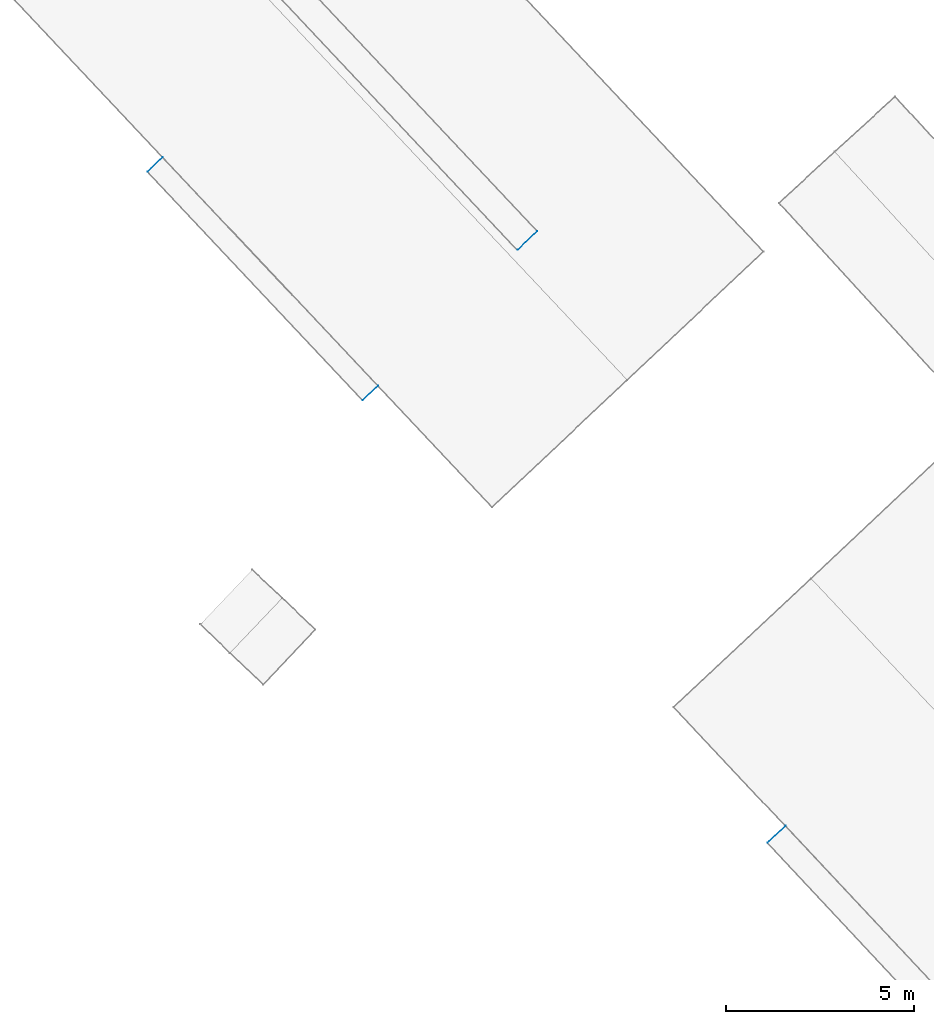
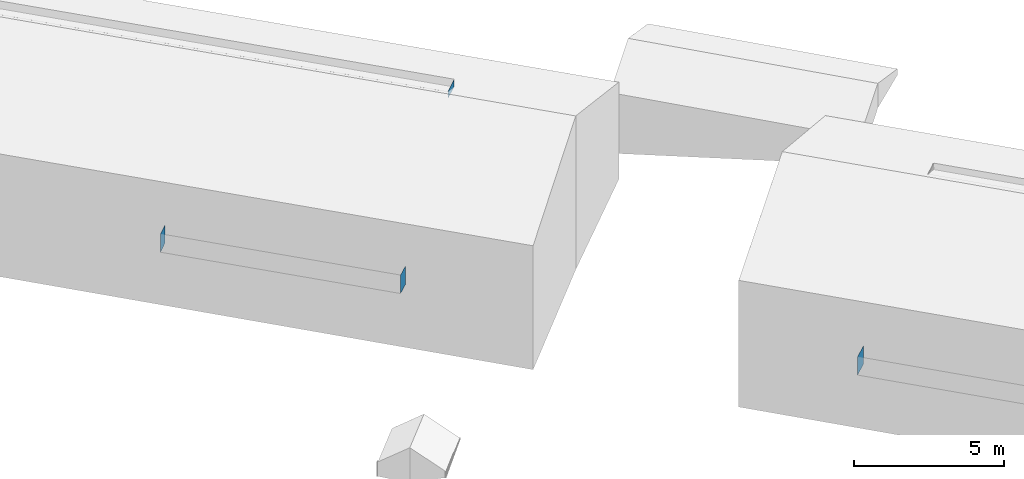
# Not in any storey, part 115 of 136: 7 walls.
"""IFC4 building model written with IfcOpenShell, lengths in metres."""

from ifc_helpers import new_model, entity, si_unit, converted_unit, frame, origin, place, context, subcontext, project, spatial, face_set, surface_model, element, save


model = new_model("IFC4")

# Units and contexts
model_context = context("Model", 3, precision=1e-05, world=origin())
body_context = subcontext(model_context, "Body", "Model", "MODEL_VIEW")
ifc_project = project(units=[converted_unit("PLANEANGLEUNIT", "DEGREE", entity("IfcRatioMeasure", 0.0174532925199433), si_unit("PLANEANGLEUNIT", "RADIAN"), dimensions=[0, 0, 0, 0, 0, 0, 0]), si_unit("AREAUNIT", "SQUARE_METRE"), si_unit("LENGTHUNIT", "METRE")], contexts=[model_context])

# Site, building
site_placement = place(None, origin())
site = spatial("IfcSite", under=ifc_project, at=site_placement, Name="_site")
building_1_placement = place(site_placement, origin())
building_1 = spatial("IfcBuilding", under=site, at=building_1_placement, Name="_building")

# Walls
wall_1_placement = place(building_1_placement, origin())
element("IfcWall", 1, at=wall_1_placement, inside=building_1, Name="Wall", PredefinedType="NOTDEFINED", context=body_context, shape_type="SurfaceModel", body=[
    surface_model("IfcFaceBasedSurfaceModel", [(52.36, 147.04, 42.19), (52.76, 147.43, 42.19), (52.76, 147.43, 42.94), (52.36, 147.04, 42.94)], [face_set([[[0, 1, 2, 3]]])]),
])
wall_2_placement = place(building_1_placement, origin())
element("IfcWall", 2, at=wall_2_placement, inside=building_1, Name="Wall", PredefinedType="NOTDEFINED", context=body_context, shape_type="SurfaceModel", body=[
    surface_model("IfcFaceBasedSurfaceModel", [(58.49, 141.351, 42.19), (58.08, 140.97, 42.19), (58.08, 140.97, 42.94), (58.49, 141.351, 42.94)], [face_set([[[0, 1, 2, 3]]])]),
])
wall_3_placement = place(building_1_placement, origin())
element("IfcWall", 3, at=wall_3_placement, inside=building_1, Name="Wall", PredefinedType="NOTDEFINED", context=body_context, shape_type="SurfaceModel", body=[
    surface_model("IfcFaceBasedSurfaceModel", [(62.73, 145.46, 46.55), (62.2, 144.96, 46.522), (62.2, 144.96, 46.243), (62.73, 145.46, 46.234)], [face_set([[[0, 1, 2, 3]]])]),
])
wall_4_placement = place(building_1_placement, origin())
element("IfcWall", 4, at=wall_4_placement, inside=building_1, Name="Wall", PredefinedType="NOTDEFINED", context=body_context, shape_type="SurfaceModel", body=[
    surface_model("IfcFaceBasedSurfaceModel", [(52.36, 147.04, 42.19), (52.76, 147.43, 42.19), (52.76, 147.43, 42.94), (52.36, 147.04, 42.94)], [face_set([[[0, 1, 2, 3]]])]),
])
wall_5_placement = place(building_1_placement, origin())
element("IfcWall", 5, at=wall_5_placement, inside=building_1, Name="Wall", PredefinedType="NOTDEFINED", context=body_context, shape_type="SurfaceModel", body=[
    surface_model("IfcFaceBasedSurfaceModel", [(58.49, 141.351, 42.19), (58.08, 140.97, 42.19), (58.08, 140.97, 42.94), (58.49, 141.351, 42.94)], [face_set([[[0, 1, 2, 3]]])]),
])

# Building
building_2_placement = place(site_placement, origin())
building_2 = spatial("IfcBuilding", under=site, at=building_2_placement, Name="_building")

# Walls
for number, where, name in (
    (6, (0.0, 0.0, 0.0), "Wall"),
    (7, (0.0, 0.0, 0.0), "Wall"),
):
    element("IfcWall", number, at=place(building_2_placement, frame(where)), inside=building_2, Name=name, PredefinedType="NOTDEFINED", context=body_context, shape_type="SurfaceModel", body=[
        surface_model("IfcFaceBasedSurfaceModel", [(68.85, 129.19, 42.25), (69.33, 129.64, 42.25), (69.33, 129.64, 43.0), (68.85, 129.19, 43.0)], [face_set([[[0, 1, 2, 3]]])]),
    ])

save(model, "model.ifc")
